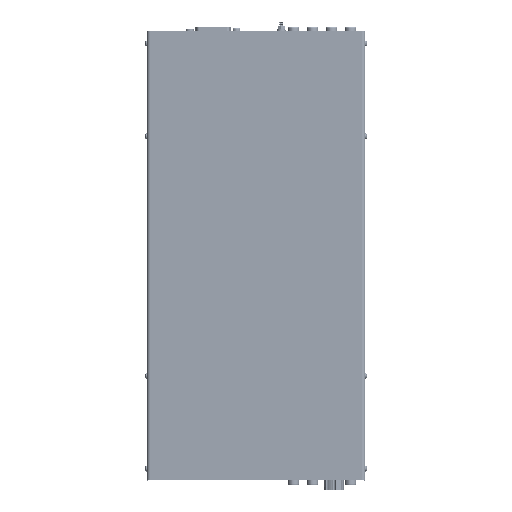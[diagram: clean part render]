
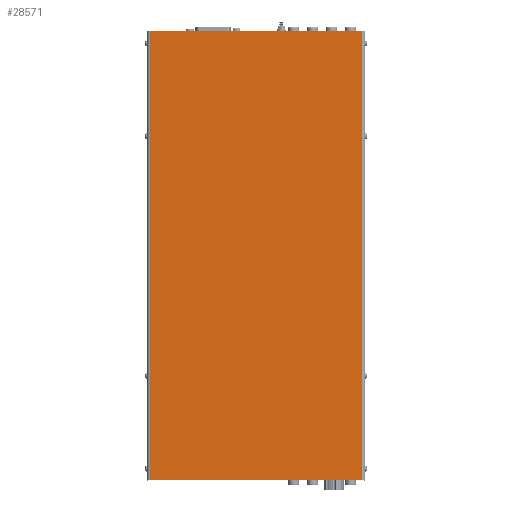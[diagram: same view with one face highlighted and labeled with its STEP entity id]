
A CAD part, top view. The second image highlights one B-rep face of the part: STEP entity #28571.
In plain terms, the highlighted planar face has unit normal (0, 0, 1).
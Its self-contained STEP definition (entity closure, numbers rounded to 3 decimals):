
#28571=ADVANCED_FACE('',(#57971),#57972,.T.);
#57971=FACE_OUTER_BOUND('',#97300,.T.);
#57972=PLANE('',#97301);
#97300=EDGE_LOOP('',(#177895,#177896,#177897,#177898));
#97301=AXIS2_PLACEMENT_3D('',#177899,#177900,#177901);
#177895=ORIENTED_EDGE('',*,*,#211243,.F.);
#177896=ORIENTED_EDGE('',*,*,#210368,.T.);
#177897=ORIENTED_EDGE('',*,*,#211246,.F.);
#177898=ORIENTED_EDGE('',*,*,#211247,.T.);
#177899=CARTESIAN_POINT('',(109.3,222.0,86.5));
#177900=DIRECTION('',(0.0,0.0,1.0));
#177901=DIRECTION('',(1.0,0.0,0.0));
#210368=EDGE_CURVE('',#256251,#256249,#256252,.F.);
#211243=EDGE_CURVE('',#256251,#257391,#257392,.F.);
#211246=EDGE_CURVE('',#257395,#256249,#257396,.F.);
#211247=EDGE_CURVE('',#257395,#257391,#257397,.F.);
#256249=VERTEX_POINT('',#324334);
#256251=VERTEX_POINT('',#324336);
#256252=LINE('',#324337,#324338);
#257391=VERTEX_POINT('',#326032);
#257392=LINE('',#326033,#326034);
#257395=VERTEX_POINT('',#326037);
#257396=LINE('',#326038,#326039);
#257397=LINE('',#326040,#326041);
#324334=CARTESIAN_POINT('',(215.1,-3.0,86.5));
#324336=CARTESIAN_POINT('',(3.5,-3.0,86.5));
#324337=CARTESIAN_POINT('',(-40.7,-3.0,86.5));
#324338=VECTOR('',#360430,1.0);
#326032=CARTESIAN_POINT('',(3.5,447.0,86.5));
#326033=CARTESIAN_POINT('',(3.5,222.0,86.5));
#326034=VECTOR('',#361022,1.0);
#326037=CARTESIAN_POINT('',(215.1,447.0,86.5));
#326038=CARTESIAN_POINT('',(215.1,222.0,86.5));
#326039=VECTOR('',#361026,1.0);
#326040=CARTESIAN_POINT('',(-40.7,447.0,86.5));
#326041=VECTOR('',#361027,1.0);
#360430=DIRECTION('',(-1.0,0.0,0.0));
#361022=DIRECTION('',(0.0,-1.0,0.0));
#361026=DIRECTION('',(0.0,1.0,0.0));
#361027=DIRECTION('',(1.0,0.0,0.0));
